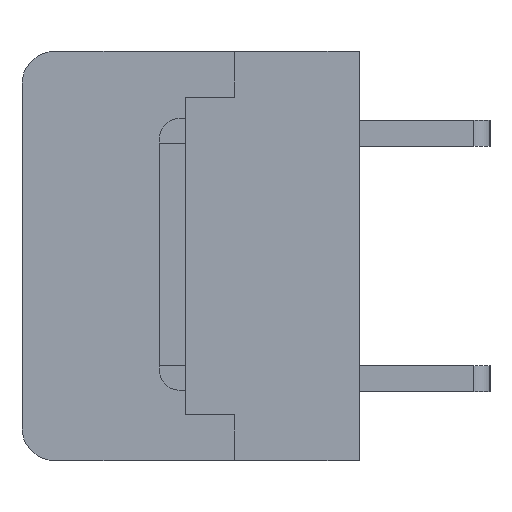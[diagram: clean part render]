
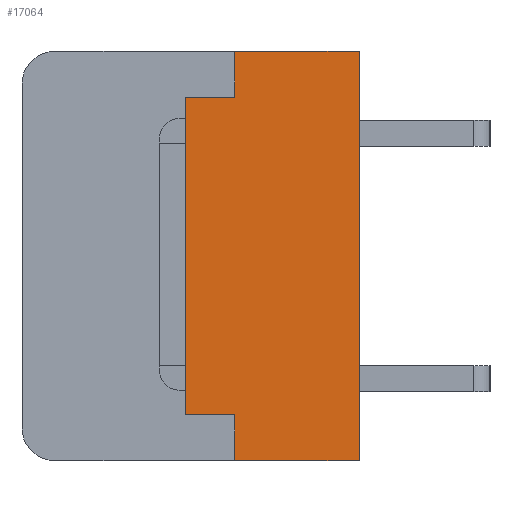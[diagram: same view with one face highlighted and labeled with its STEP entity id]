
A CAD part, left-side view. The second image highlights one B-rep face of the part: STEP entity #17064.
In plain terms, the highlighted planar face has unit normal (-1, 0, 0).
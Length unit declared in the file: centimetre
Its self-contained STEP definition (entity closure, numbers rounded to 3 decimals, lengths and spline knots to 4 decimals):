
#1085=PLANE('',#27785);
#1803=VECTOR('',#18308,1.);
#1896=VECTOR('',#18457,1.);
#1914=VECTOR('',#18476,1.);
#2472=VECTOR('',#19712,1.);
#2662=VECTOR('',#20142,1.);
#2663=VECTOR('',#20143,1.);
#2664=VECTOR('',#20144,1.);
#2665=VECTOR('',#20145,1.);
#3639=LINE('',#22760,#1803);
#3732=LINE('',#22972,#1896);
#3750=LINE('',#23007,#1914);
#4308=LINE('',#24772,#2472);
#4498=LINE('',#25375,#2662);
#4499=LINE('',#25377,#2663);
#4500=LINE('',#25378,#2664);
#4501=LINE('',#25380,#2665);
#5409=VERTEX_POINT('',#22759);
#5410=VERTEX_POINT('',#22761);
#5468=VERTEX_POINT('',#22928);
#5489=VERTEX_POINT('',#22971);
#5505=VERTEX_POINT('',#23006);
#5506=VERTEX_POINT('',#23008);
#6213=VERTEX_POINT('',#25376);
#6214=VERTEX_POINT('',#25379);
#7592=EDGE_CURVE('',#5409,#5410,#3639,.T.);
#7697=EDGE_CURVE('',#5489,#5468,#3732,.T.);
#7715=EDGE_CURVE('',#5505,#5506,#3750,.T.);
#8527=EDGE_CURVE('',#5468,#5505,#4308,.T.);
#8805=EDGE_CURVE('',#6213,#5489,#4498,.T.);
#8806=EDGE_CURVE('',#5410,#6213,#4499,.T.);
#8807=EDGE_CURVE('',#6214,#5409,#4500,.T.);
#8808=EDGE_CURVE('',#5506,#6214,#4501,.T.);
#13270=ORIENTED_EDGE('',*,*,#8805,.F.);
#13271=ORIENTED_EDGE('',*,*,#8806,.F.);
#13272=ORIENTED_EDGE('',*,*,#7592,.F.);
#13273=ORIENTED_EDGE('',*,*,#8807,.F.);
#13274=ORIENTED_EDGE('',*,*,#8808,.F.);
#13275=ORIENTED_EDGE('',*,*,#7715,.F.);
#13276=ORIENTED_EDGE('',*,*,#8527,.F.);
#13277=ORIENTED_EDGE('',*,*,#7697,.F.);
#15090=EDGE_LOOP('',(#13270,#13271,#13272,#13273,#13274,#13275,#13276,#13277));
#16114=FACE_BOUND('',#15090,.T.);
#17064=ADVANCED_FACE('',(#16114),#1085,.F.);
#18308=DIRECTION('',(0.,0.,1.));
#18457=DIRECTION('',(0.,-1.,0.));
#18476=DIRECTION('',(0.,1.,0.));
#19712=DIRECTION('',(0.,0.,-1.));
#20141=DIRECTION('',(1.,0.,0.));
#20142=DIRECTION('',(0.,0.,1.));
#20143=DIRECTION('',(0.,-1.,0.));
#20144=DIRECTION('',(0.,1.,0.));
#20145=DIRECTION('',(0.,0.,1.));
#22759=CARTESIAN_POINT('',(-1.382,0.53,-0.485));
#22760=CARTESIAN_POINT('',(-1.382,0.53,-0.485));
#22761=CARTESIAN_POINT('',(-1.382,0.53,0.485));
#22928=CARTESIAN_POINT('',(-1.382,0.,0.625));
#22971=CARTESIAN_POINT('',(-1.382,0.38,0.625));
#22972=CARTESIAN_POINT('',(-1.382,0.38,0.625));
#23006=CARTESIAN_POINT('',(-1.382,0.,-0.625));
#23007=CARTESIAN_POINT('',(-1.382,0.,-0.625));
#23008=CARTESIAN_POINT('',(-1.382,0.38,-0.625));
#24772=CARTESIAN_POINT('',(-1.382,0.,0.625));
#25374=CARTESIAN_POINT('',(-1.382,0.2532,0.));
#25375=CARTESIAN_POINT('',(-1.382,0.38,0.485));
#25376=CARTESIAN_POINT('',(-1.382,0.38,0.485));
#25377=CARTESIAN_POINT('',(-1.382,0.53,0.485));
#25378=CARTESIAN_POINT('',(-1.382,0.38,-0.485));
#25379=CARTESIAN_POINT('',(-1.382,0.38,-0.485));
#25380=CARTESIAN_POINT('',(-1.382,0.38,-0.625));
#27785=AXIS2_PLACEMENT_3D('',#25374,#20141,$);
